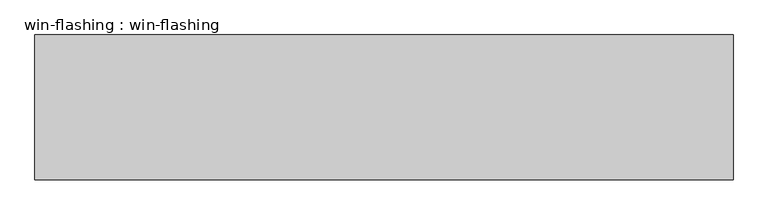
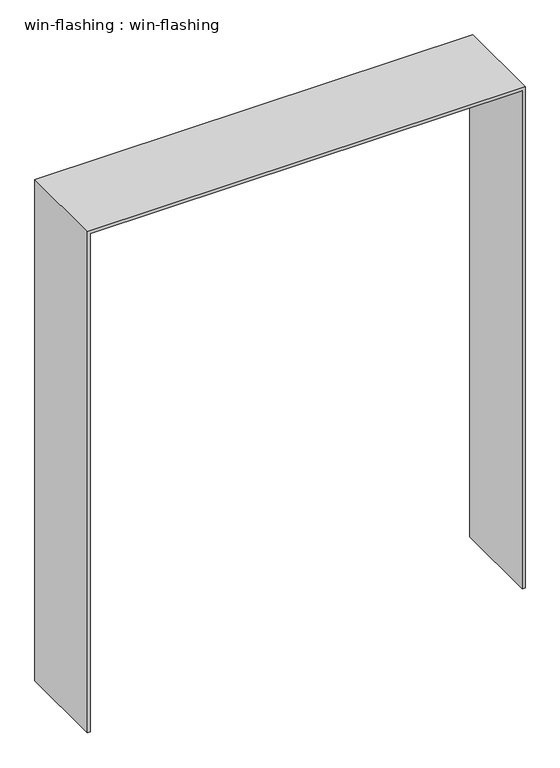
"""IFC4 building model written with IfcOpenShell, lengths in millimetres: beam geometry, win-flashing : win-flashing."""

from ifc_helpers import new_model, si_unit, frame, origin, place, context, project, spatial, polyline, outline, extrude, source, transform, mapped, element, save


def win_flashing_win_flashing_053a81bb(model_context):
    return source(origin(), model_context, "Body", "SweptSolid", [
        extrude(outline(polyline([(8940.0, -1790.5666589), (8940.0, -1780.5666589), (10780.0, -1780.5666589), (10780.0, -3300.5666589), (8940.0, -3300.5666589), (8940.0, -3290.5666589), (10770.0, -3290.5666589), (10770.0, -1790.5666589), (8940.0, -1790.5666589)])), frame((0.0, -5904.4647185, 0.0), z_axis=(0.0, 1.0, 0.0), x_axis=(0.0, 0.0, 1.0)), (0.0, 0.0, 1.0), 315.0),
    ])


if __name__ == "__main__":
    model = new_model("IFC4")
    model_context = context("Model", 3, world=origin())
    ifc_project = project(units=[si_unit("LENGTHUNIT", "METRE", prefix="MILLI")], contexts=[model_context])
    site = spatial("IfcSite", under=ifc_project)
    building = spatial("IfcBuilding", under=site)
    placement = place(None, origin())
    win_flashing_win_flashing_shape = win_flashing_win_flashing_053a81bb(model_context)
    element("IfcBeam", 1, ObjectType="win-flashing : win-flashing", at=placement, inside=building, context=model_context, shape_type="MappedRepresentation", body=[
        mapped(win_flashing_win_flashing_shape, transform((0.0, 0.0, 0.0), x_axis=(1.0, 0.0, 0.0), y_axis=(0.0, 1.0, 0.0), z_axis=(0.0, 0.0, 1.0))),
    ])
    save(model, "model.ifc")
